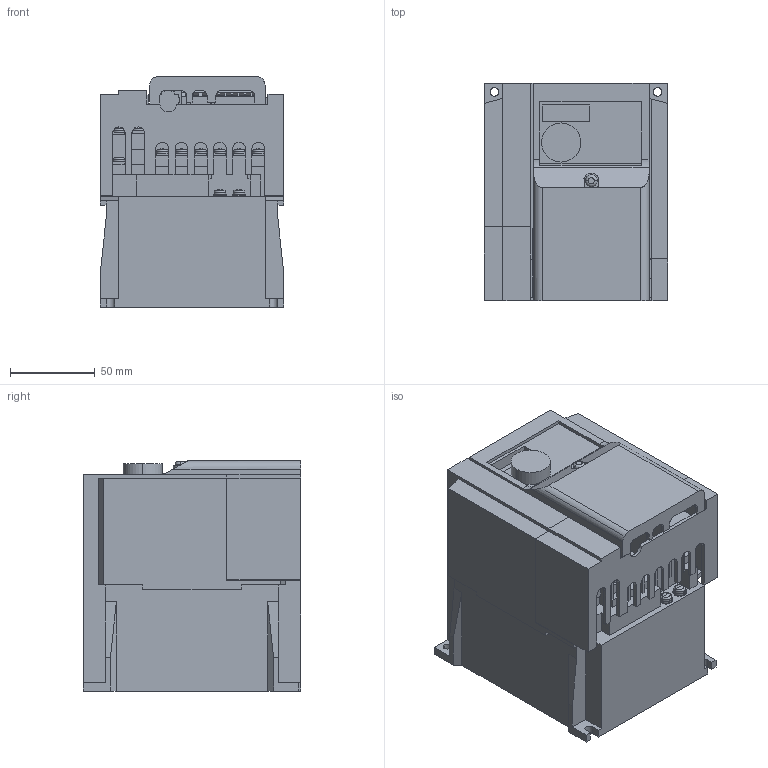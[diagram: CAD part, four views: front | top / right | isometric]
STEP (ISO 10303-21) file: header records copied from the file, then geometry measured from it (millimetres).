
FILE_DESCRIPTION((''),'2;1');
FILE_NAME('3D-INV-25_08_ASM','2010-09-06T',('HW41538'),(''),'PRO/ENGINEER BY PARAMETRIC TECHNOLOGY CORPORATION, 2006420','PRO/ENGINEER BY PARAMETRIC TECHNOLOGY CORPORATION, 2006420','');
FILE_SCHEMA(('CONFIG_CONTROL_DESIGN'));
Length unit declared in the file: millimetre
Products named in the file (12): 3D-BASE-25_08; 3D-POWER-25_08_ASM; 3D-FAN-60; 3D-FAN_COV-21_06; 3D-FAN-60_ASSY_ASM; 3D-SW-PW-P-NA-M4X8_; 3D-TE_NEJI-M4X8-ZA7; 3D-TE_SHORT-21_06; 3D-TE_NEJI-21_06_ASM; 3D-SEN_COV-25_08; 3D-COV-D7; 3D-INV-25_08_ASM
Assembly tree (21 placements, depth 3):
  3D-INV-25_08_ASM
    3D-POWER-25_08_ASM
      3D-BASE-25_08
    3D-FAN-60_ASSY_ASM
      3D-FAN-60
      3D-FAN_COV-21_06
    3D-SW-PW-P-NA-M4X8_  x2
    3D-TE_NEJI-21_06_ASM
      3D-TE_NEJI-M4X8-ZA7  x10
      3D-TE_SHORT-21_06
    3D-SEN_COV-25_08
    3D-COV-D7
Bounding box: 108 x 128 x 135.5 mm (x, y, z)
Volume: 1450770.2 mm3; surface area: 188410 mm2
Topology: 18 solids, 19 shells, 1005 faces, 2620 edges, 1691 vertices
Faces by surface type: plane 775, cylinder 156, torus 26, cone 24, sphere 24
Entity records: 26313 total; most frequent: CARTESIAN_POINT 4692, ORIENTED_EDGE 4484, DIRECTION 4281, EDGE_CURVE 2242, VECTOR 1937, LINE 1937, VERTEX_POINT 1483, AXIS2_PLACEMENT_3D 1172
